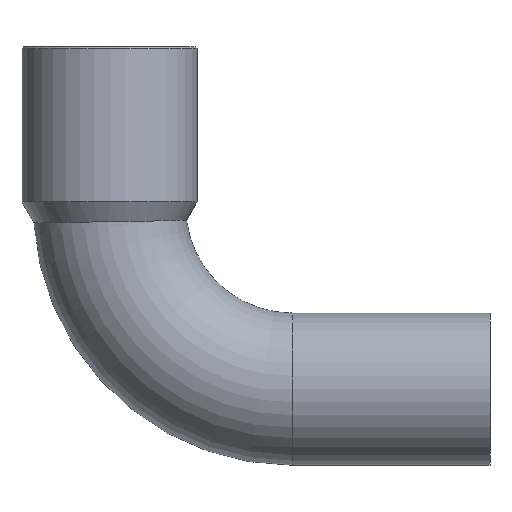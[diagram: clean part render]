
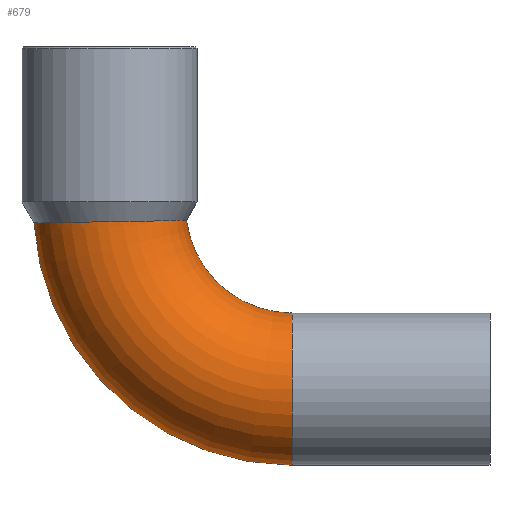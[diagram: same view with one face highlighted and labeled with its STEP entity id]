
A CAD part, front view. The second image highlights one B-rep face of the part: STEP entity #679.
In plain terms, the highlighted toroidal (fillet/blend) face has major radius 9.6 mm and minor radius 4 mm.
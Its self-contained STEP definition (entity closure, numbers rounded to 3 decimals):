
#49=CARTESIAN_POINT('',(8.461,0.,-0.846));
#50=VERTEX_POINT('',#49);
#51=CARTESIAN_POINT('',(22.035,0.,-13.6));
#52=VERTEX_POINT('',#51);
#53=CARTESIAN_POINT('',(22.035,0.,0.0));
#54=DIRECTION('',(0.0,-1.0,0.0));
#55=DIRECTION('',(0.0,0.0,-1.0));
#56=AXIS2_PLACEMENT_3D('',#53,#54,#55);
#57=CIRCLE('',#56,13.6);
#58=EDGE_CURVE('',#50,#52,#57,.T.);
#60=CARTESIAN_POINT('',(16.481,0.,-0.72));
#61=VERTEX_POINT('',#60);
#85=CARTESIAN_POINT('',(22.035,0.,-5.6));
#86=VERTEX_POINT('',#85);
#87=CARTESIAN_POINT('',(22.035,0.,0.0));
#88=DIRECTION('',(0.0,1.0,0.0));
#89=DIRECTION('',(0.0,0.0,-1.0));
#90=AXIS2_PLACEMENT_3D('',#87,#88,#89);
#91=CIRCLE('',#90,5.6);
#92=EDGE_CURVE('',#86,#61,#91,.T.);
#210=CARTESIAN_POINT('',(16.481,0.,-0.72));
#211=CARTESIAN_POINT('',(16.481,-0.034,-0.72));
#212=CARTESIAN_POINT('',(16.481,-0.068,-0.72));
#213=CARTESIAN_POINT('',(16.467,-0.622,-0.72));
#214=CARTESIAN_POINT('',(16.352,-1.133,-0.723));
#215=CARTESIAN_POINT('',(15.931,-2.087,-0.734));
#216=CARTESIAN_POINT('',(15.629,-2.519,-0.742));
#217=CARTESIAN_POINT('',(14.874,-3.243,-0.758));
#218=CARTESIAN_POINT('',(14.429,-3.528,-0.767));
#219=CARTESIAN_POINT('',(13.456,-3.912,-0.785));
#220=CARTESIAN_POINT('',(12.936,-4.007,-0.793));
#221=CARTESIAN_POINT('',(11.89,-3.992,-0.808));
#222=CARTESIAN_POINT('',(11.374,-3.883,-0.815));
#223=CARTESIAN_POINT('',(10.414,-3.474,-0.826));
#224=CARTESIAN_POINT('',(9.979,-3.178,-0.831));
#225=CARTESIAN_POINT('',(9.248,-2.436,-0.838));
#226=CARTESIAN_POINT('',(8.958,-1.998,-0.841));
#227=CARTESIAN_POINT('',(8.563,-1.035,-0.845));
#228=CARTESIAN_POINT('',(8.461,-0.52,-0.846));
#229=CARTESIAN_POINT('',(8.461,0.,-0.846));
#230=B_SPLINE_CURVE_WITH_KNOTS('',3,(#210,#211,#212,#213,#214,#215,#216,#217,#218,#219,#220,#221,#222,#223,#224,#225,#226,#227,#228,#229),.UNSPECIFIED.,.F.,.U.,(4,2,2,2,2,2,2,2,2,4),(-1.262,-1.252,-1.096,-0.939,-0.782,-0.625,-0.469,-0.312,-0.156,0.0),.UNSPECIFIED.);
#231=EDGE_CURVE('',#61,#50,#230,.T.);
#535=CARTESIAN_POINT('',(22.035,0.,-9.6));
#536=DIRECTION('',(-1.0,0.0,0.0));
#537=DIRECTION('',(0.0,0.0,-1.0));
#538=AXIS2_PLACEMENT_3D('',#535,#536,#537);
#539=CIRCLE('',#538,4.0);
#540=EDGE_CURVE('',#52,#86,#539,.T.);
#668=CARTESIAN_POINT('',(22.035,0.,0.0));
#669=DIRECTION('',(0.0,-1.0,0.0));
#670=DIRECTION('',(0.0,0.0,-1.0));
#671=AXIS2_PLACEMENT_3D('',#668,#669,#670);
#672=TOROIDAL_SURFACE('',#671,9.6,4.0);
#673=ORIENTED_EDGE('',*,*,#58,.T.);
#674=ORIENTED_EDGE('',*,*,#540,.T.);
#675=ORIENTED_EDGE('',*,*,#92,.T.);
#676=ORIENTED_EDGE('',*,*,#231,.T.);
#677=EDGE_LOOP('',(#673,#674,#675,#676));
#678=FACE_OUTER_BOUND('',#677,.T.);
#679=ADVANCED_FACE('',(#678),#672,.T.);
